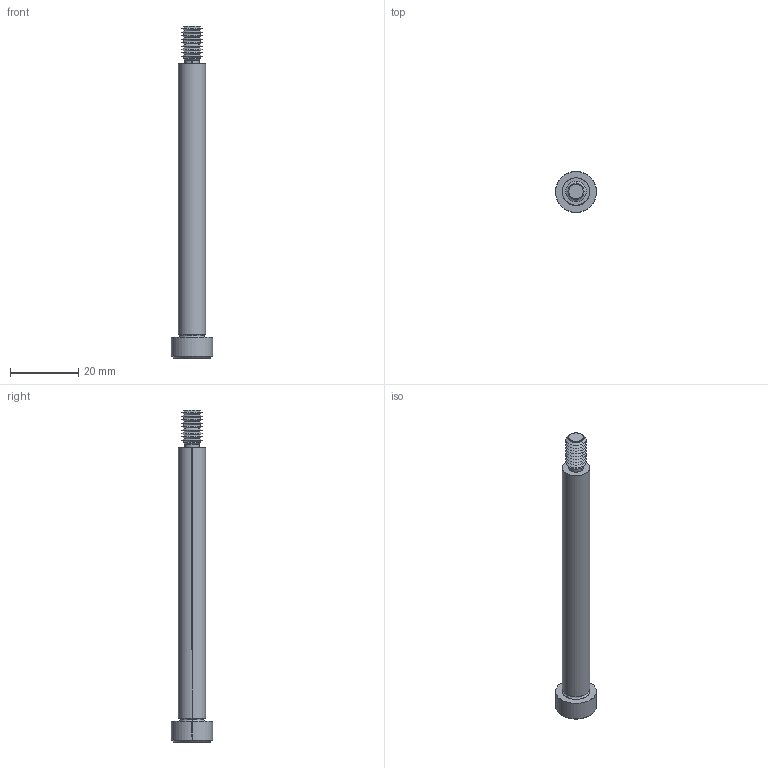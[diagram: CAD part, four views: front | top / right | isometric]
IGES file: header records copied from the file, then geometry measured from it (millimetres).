
Start section: SolidWorks IGES file using analytic representation for surfaces
Global section: file name: C:\Users\IanO\Documents\Temp Folder\GENERAL\SCREW REVISION\P0130_v2\P0130.T5_v2_20220106_IGES\P0130.080-080-T5.igs; native system: SolidWorks 2019; preprocessor: SolidWorks 2019; author: IanO; date: 220106.223911; units: millimetre
Bounding box: 12 x 12 x 97 mm (x, y, z)
Surface area: 2846.9 mm2 (no closed solid volume)
Topology: 0 solids, 0 shells, 80 faces, 580 edges, 578 vertices
Faces by surface type: revolution 60, bspline 20
